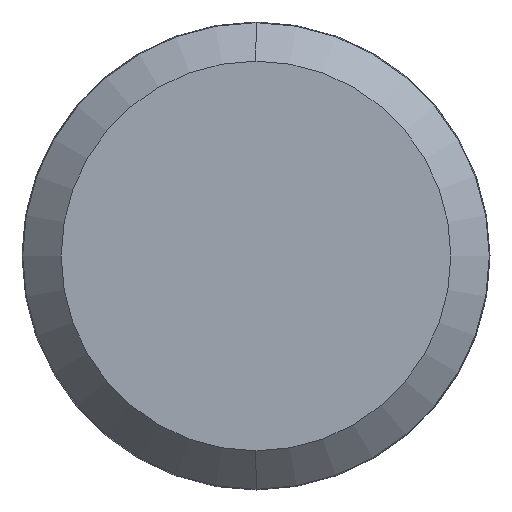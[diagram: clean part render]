
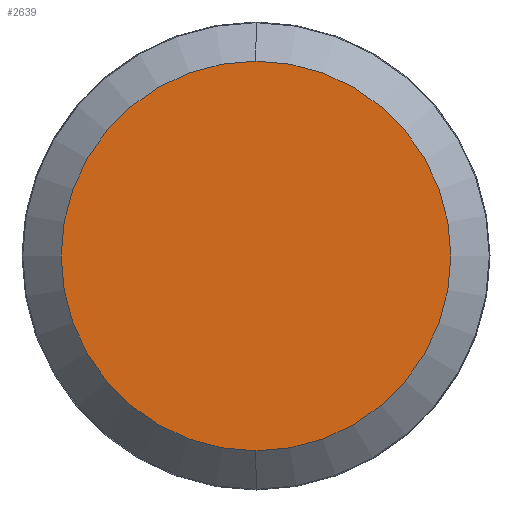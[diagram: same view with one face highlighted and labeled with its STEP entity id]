
A CAD part, left-side view. The second image highlights one B-rep face of the part: STEP entity #2639.
In plain terms, the highlighted planar face has unit normal (-1, 0, 0) as drawn and (0, 0, 1) by its records, which use the part's own axes.
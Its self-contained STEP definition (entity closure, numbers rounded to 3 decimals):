
#288 = FACE_OUTER_BOUND ( 'NONE', #2394, .T. ) ;
#692 = AXIS2_PLACEMENT_3D ( 'NONE', #4452, #6409, #7101 ) ;
#929 = DIRECTION ( 'NONE',  ( 1., 0., 0. ) ) ;
#1414 = CIRCLE ( 'NONE', #5149, 7.869 ) ;
#1620 = PLANE ( 'NONE',  #8001 ) ;
#1767 = VERTEX_POINT ( 'NONE', #5378 ) ;
#2358 = VERTEX_POINT ( 'NONE', #6883 ) ;
#2394 = EDGE_LOOP ( 'NONE', ( #6741, #4864 ) ) ;
#2440 = CARTESIAN_POINT ( 'NONE',  ( 0., 0., 3.075 ) ) ;
#2639 = ADVANCED_FACE ( 'NONE', ( #288 ), #1620, .T. ) ;
#3091 = DIRECTION ( 'NONE',  ( 0., 0., 1. ) ) ;
#4452 = CARTESIAN_POINT ( 'NONE',  ( 0., 0., 3.075 ) ) ;
#4864 = ORIENTED_EDGE ( 'NONE', *, *, #5803, .T. ) ;
#5149 = AXIS2_PLACEMENT_3D ( 'NONE', #2440, #3091, #5734 ) ;
#5378 = CARTESIAN_POINT ( 'NONE',  ( 7.869, 0., 3.075 ) ) ;
#5604 = DIRECTION ( 'NONE',  ( 0., 0., 1. ) ) ;
#5734 = DIRECTION ( 'NONE',  ( 1., 0., 0. ) ) ;
#5803 = EDGE_CURVE ( 'NONE', #1767, #2358, #1414, .T. ) ;
#6409 = DIRECTION ( 'NONE',  ( 0., 0., 1. ) ) ;
#6741 = ORIENTED_EDGE ( 'NONE', *, *, #8455, .T. ) ;
#6883 = CARTESIAN_POINT ( 'NONE',  ( -7.869, 0., 3.075 ) ) ;
#7101 = DIRECTION ( 'NONE',  ( 1., 0., 0. ) ) ;
#8001 = AXIS2_PLACEMENT_3D ( 'NONE', #8223, #5604, #929 ) ;
#8223 = CARTESIAN_POINT ( 'NONE',  ( 0., 0., 3.075 ) ) ;
#8445 = CIRCLE ( 'NONE', #692, 7.869 ) ;
#8455 = EDGE_CURVE ( 'NONE', #2358, #1767, #8445, .T. ) ;
